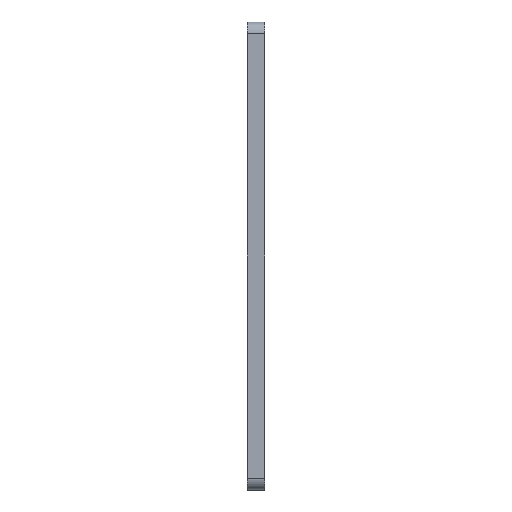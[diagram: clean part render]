
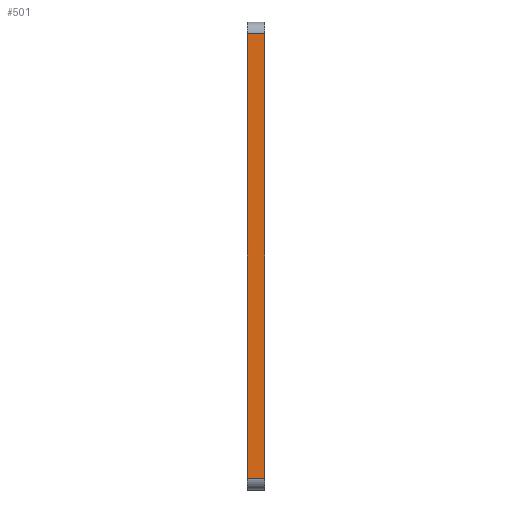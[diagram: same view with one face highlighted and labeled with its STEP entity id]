
A CAD part, left-side view. The second image highlights one B-rep face of the part: STEP entity #501.
In plain terms, the highlighted planar face has unit normal (-1, 0, 0).
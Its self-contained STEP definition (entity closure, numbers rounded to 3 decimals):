
#14 = ORIENTED_EDGE ( 'NONE', *, *, #505, .T. ) ;
#15 = ORIENTED_EDGE ( 'NONE', *, *, #259, .T. ) ;
#38 = VECTOR ( 'NONE', #666, 1000. ) ;
#48 = CARTESIAN_POINT ( 'NONE',  ( 0., 0., -80. ) ) ;
#59 = EDGE_CURVE ( 'NONE', #475, #314, #269, .T. ) ;
#78 = CARTESIAN_POINT ( 'NONE',  ( 0., 0., -2. ) ) ;
#85 = DIRECTION ( 'NONE',  ( 0., -1., 0. ) ) ;
#132 = VERTEX_POINT ( 'NONE', #78 ) ;
#162 = DIRECTION ( 'NONE',  ( 0., 0., -1. ) ) ;
#164 = CARTESIAN_POINT ( 'NONE',  ( 0., 3., -78. ) ) ;
#183 = DIRECTION ( 'NONE',  ( 0., 1., 0. ) ) ;
#259 = EDGE_CURVE ( 'NONE', #132, #447, #609, .T. ) ;
#269 = LINE ( 'NONE', #459, #771 ) ;
#276 = FACE_OUTER_BOUND ( 'NONE', #524, .T. ) ;
#314 = VERTEX_POINT ( 'NONE', #676 ) ;
#336 = CARTESIAN_POINT ( 'NONE',  ( 0., 3., -2. ) ) ;
#352 = EDGE_CURVE ( 'NONE', #475, #447, #592, .T. ) ;
#406 = VECTOR ( 'NONE', #480, 1000. ) ;
#421 = ORIENTED_EDGE ( 'NONE', *, *, #59, .T. ) ;
#440 = AXIS2_PLACEMENT_3D ( 'NONE', #795, #658, #162 ) ;
#447 = VERTEX_POINT ( 'NONE', #336 ) ;
#459 = CARTESIAN_POINT ( 'NONE',  ( 0., 3., -78. ) ) ;
#465 = VECTOR ( 'NONE', #183, 1000. ) ;
#475 = VERTEX_POINT ( 'NONE', #164 ) ;
#480 = DIRECTION ( 'NONE',  ( 0., 0., 1. ) ) ;
#501 = ADVANCED_FACE ( 'NONE', ( #276 ), #535, .F. ) ;
#505 = EDGE_CURVE ( 'NONE', #314, #132, #791, .T. ) ;
#524 = EDGE_LOOP ( 'NONE', ( #705, #421, #14, #15 ) ) ;
#535 = PLANE ( 'NONE',  #440 ) ;
#592 = LINE ( 'NONE', #671, #38 ) ;
#609 = LINE ( 'NONE', #618, #465 ) ;
#618 = CARTESIAN_POINT ( 'NONE',  ( 0., 3., -2. ) ) ;
#658 = DIRECTION ( 'NONE',  ( 1., 0., 0. ) ) ;
#666 = DIRECTION ( 'NONE',  ( 0., 0., 1. ) ) ;
#671 = CARTESIAN_POINT ( 'NONE',  ( 0., 3., -80. ) ) ;
#676 = CARTESIAN_POINT ( 'NONE',  ( 0., 0., -78. ) ) ;
#705 = ORIENTED_EDGE ( 'NONE', *, *, #352, .F. ) ;
#771 = VECTOR ( 'NONE', #85, 1000. ) ;
#791 = LINE ( 'NONE', #48, #406 ) ;
#795 = CARTESIAN_POINT ( 'NONE',  ( 0., 3., -80. ) ) ;
